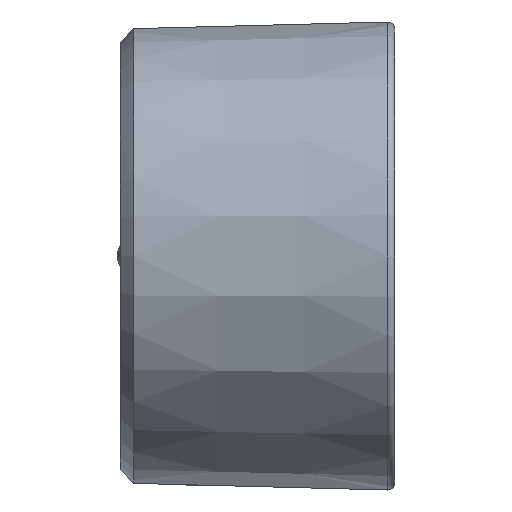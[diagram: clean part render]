
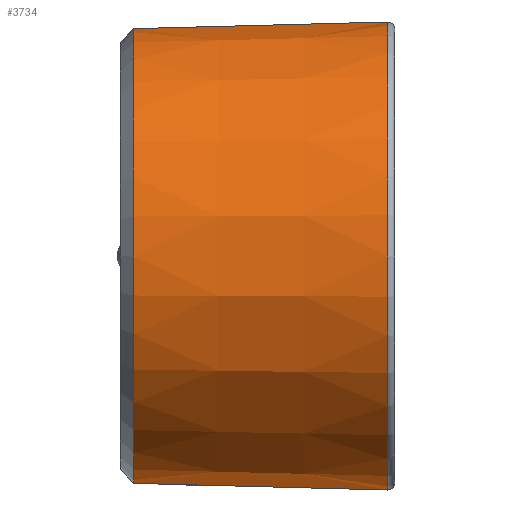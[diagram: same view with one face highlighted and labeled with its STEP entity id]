
A CAD part, left-side view. The second image highlights one B-rep face of the part: STEP entity #3734.
In plain terms, the highlighted conical face has half-angle 1.5 degrees and reference radius 17.251 mm.
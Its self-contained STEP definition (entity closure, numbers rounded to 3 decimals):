
#15=CONICAL_SURFACE('',#4050,17.251,1.5);
#321=CIRCLE('',#4036,17.5);
#328=CIRCLE('',#4048,17.002);
#575=FACE_OUTER_BOUND('',#831,.T.);
#831=EDGE_LOOP('',(#2848,#2849,#2850,#2851));
#1090=LINE('',#7664,#1304);
#1104=LINE('',#7942,#1318);
#1304=VECTOR('',#4672,1.);
#1318=VECTOR('',#4756,1.);
#1727=VERTEX_POINT('',#7661);
#1728=VERTEX_POINT('',#7663);
#1736=VERTEX_POINT('',#7718);
#1741=VERTEX_POINT('',#7937);
#2116=EDGE_CURVE('',#1728,#1727,#1090,.T.);
#2139=EDGE_CURVE('',#1727,#1736,#321,.T.);
#2154=EDGE_CURVE('',#1728,#1741,#328,.T.);
#2156=EDGE_CURVE('',#1741,#1736,#1104,.T.);
#2848=ORIENTED_EDGE('',*,*,#2139,.T.);
#2849=ORIENTED_EDGE('',*,*,#2156,.F.);
#2850=ORIENTED_EDGE('',*,*,#2154,.F.);
#2851=ORIENTED_EDGE('',*,*,#2116,.T.);
#3734=ADVANCED_FACE('',(#575),#15,.T.);
#4036=AXIS2_PLACEMENT_3D('',#7720,#4722,#4723);
#4048=AXIS2_PLACEMENT_3D('',#7938,#4749,#4750);
#4050=AXIS2_PLACEMENT_3D('',#7941,#4754,#4755);
#4672=DIRECTION('',(0.,-1.,-0.026));
#4722=DIRECTION('center_axis',(0.,1.,0.));
#4723=DIRECTION('ref_axis',(0.,0.,-1.));
#4749=DIRECTION('center_axis',(0.,1.,0.));
#4750=DIRECTION('ref_axis',(0.,0.,-1.));
#4754=DIRECTION('center_axis',(0.,-1.,0.));
#4755=DIRECTION('ref_axis',(0.,0.,1.));
#4756=DIRECTION('',(0.,-1.,0.026));
#7661=CARTESIAN_POINT('',(-12.5,0.013,32.5));
#7663=CARTESIAN_POINT('',(-12.5,19.,32.998));
#7664=CARTESIAN_POINT('',(-12.5,19.,32.998));
#7718=CARTESIAN_POINT('',(-12.5,0.013,67.5));
#7720=CARTESIAN_POINT('Origin',(-12.5,0.013,50.));
#7937=CARTESIAN_POINT('',(-12.5,19.,67.002));
#7938=CARTESIAN_POINT('Origin',(-12.5,19.,50.));
#7941=CARTESIAN_POINT('Origin',(-12.5,9.5,50.));
#7942=CARTESIAN_POINT('',(-12.5,19.,67.002));
